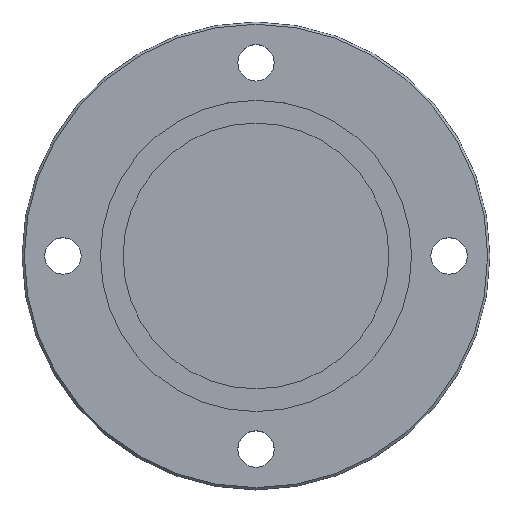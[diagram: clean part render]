
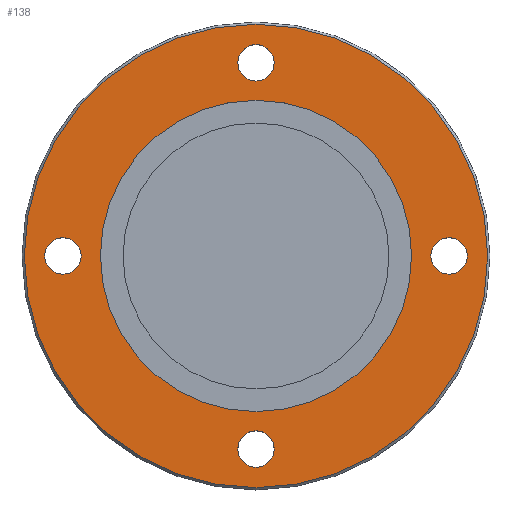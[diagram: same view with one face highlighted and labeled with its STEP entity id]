
A CAD part, top view. The second image highlights one B-rep face of the part: STEP entity #138.
In plain terms, the highlighted planar face has unit normal (0, 0, 1).
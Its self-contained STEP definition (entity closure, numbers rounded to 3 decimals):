
#4 = CIRCLE ( 'NONE', #447, 4. ) ;
#28 = DIRECTION ( 'NONE',  ( 0., 0., 1. ) ) ;
#36 = CARTESIAN_POINT ( 'NONE',  ( -42.5, 0., 10. ) ) ;
#41 = VERTEX_POINT ( 'NONE', #78 ) ;
#53 = VERTEX_POINT ( 'NONE', #409 ) ;
#57 = DIRECTION ( 'NONE',  ( 1., 0., 0. ) ) ;
#66 = DIRECTION ( 'NONE',  ( 1., 0., 0. ) ) ;
#78 = CARTESIAN_POINT ( 'NONE',  ( -51., 0., 10. ) ) ;
#81 = EDGE_CURVE ( 'NONE', #558, #675, #204, .T. ) ;
#84 = ORIENTED_EDGE ( 'NONE', *, *, #699, .T. ) ;
#85 = EDGE_CURVE ( 'NONE', #53, #135, #411, .T. ) ;
#86 = CIRCLE ( 'NONE', #476, 4. ) ;
#93 = DIRECTION ( 'NONE',  ( -1., 0., 0. ) ) ;
#106 = ORIENTED_EDGE ( 'NONE', *, *, #685, .F. ) ;
#114 = DIRECTION ( 'NONE',  ( 0., 0., 1. ) ) ;
#115 = DIRECTION ( 'NONE',  ( 0., 0., 1. ) ) ;
#117 = CARTESIAN_POINT ( 'NONE',  ( -34.25, 0., 10. ) ) ;
#119 = CARTESIAN_POINT ( 'NONE',  ( 0., 42.5, 10. ) ) ;
#129 = VERTEX_POINT ( 'NONE', #370 ) ;
#135 = VERTEX_POINT ( 'NONE', #426 ) ;
#137 = ORIENTED_EDGE ( 'NONE', *, *, #537, .F. ) ;
#138 = ADVANCED_FACE ( 'NONE', ( #375, #207, #709, #594, #317, #485 ), #205, .F. ) ;
#145 = VERTEX_POINT ( 'NONE', #377 ) ;
#148 = ORIENTED_EDGE ( 'NONE', *, *, #159, .F. ) ;
#153 = DIRECTION ( 'NONE',  ( 0., 0., 1. ) ) ;
#156 = VERTEX_POINT ( 'NONE', #265 ) ;
#159 = EDGE_CURVE ( 'NONE', #612, #708, #4, .T. ) ;
#199 = EDGE_CURVE ( 'NONE', #156, #145, #536, .T. ) ;
#204 = CIRCLE ( 'NONE', #373, 34.25 ) ;
#205 = PLANE ( 'NONE',  #592 ) ;
#206 = EDGE_LOOP ( 'NONE', ( #498, #652 ) ) ;
#207 = FACE_BOUND ( 'NONE', #431, .T. ) ;
#209 = DIRECTION ( 'NONE',  ( 0., -1., 0. ) ) ;
#220 = CARTESIAN_POINT ( 'NONE',  ( 42.5, 0., 10. ) ) ;
#223 = ORIENTED_EDGE ( 'NONE', *, *, #388, .F. ) ;
#231 = CARTESIAN_POINT ( 'NONE',  ( 0., 42.5, 10. ) ) ;
#255 = DIRECTION ( 'NONE',  ( -1., 0., 0. ) ) ;
#265 = CARTESIAN_POINT ( 'NONE',  ( -42.5, -4., 10. ) ) ;
#275 = CIRCLE ( 'NONE', #556, 34.25 ) ;
#284 = EDGE_LOOP ( 'NONE', ( #148, #703 ) ) ;
#298 = DIRECTION ( 'NONE',  ( 0., 0., 1. ) ) ;
#308 = EDGE_CURVE ( 'NONE', #41, #129, #314, .T. ) ;
#314 = CIRCLE ( 'NONE', #591, 51. ) ;
#317 = FACE_OUTER_BOUND ( 'NONE', #349, .T. ) ;
#320 = EDGE_CURVE ( 'NONE', #675, #558, #275, .T. ) ;
#347 = DIRECTION ( 'NONE',  ( 1., 0., 0. ) ) ;
#349 = EDGE_LOOP ( 'NONE', ( #389, #84 ) ) ;
#370 = CARTESIAN_POINT ( 'NONE',  ( 51., 0., 10. ) ) ;
#373 = AXIS2_PLACEMENT_3D ( 'NONE', #487, #28, #601 ) ;
#375 = FACE_BOUND ( 'NONE', #397, .T. ) ;
#377 = CARTESIAN_POINT ( 'NONE',  ( -42.5, 4., 10. ) ) ;
#380 = CIRCLE ( 'NONE', #454, 51. ) ;
#382 = CARTESIAN_POINT ( 'NONE',  ( 0., -42.5, 10. ) ) ;
#385 = AXIS2_PLACEMENT_3D ( 'NONE', #119, #625, #66 ) ;
#388 = EDGE_CURVE ( 'NONE', #135, #53, #688, .T. ) ;
#389 = ORIENTED_EDGE ( 'NONE', *, *, #308, .T. ) ;
#397 = EDGE_LOOP ( 'NONE', ( #137, #415 ) ) ;
#400 = DIRECTION ( 'NONE',  ( 1., 0., 0. ) ) ;
#409 = CARTESIAN_POINT ( 'NONE',  ( 4., -42.5, 10. ) ) ;
#411 = CIRCLE ( 'NONE', #629, 4. ) ;
#415 = ORIENTED_EDGE ( 'NONE', *, *, #199, .F. ) ;
#419 = DIRECTION ( 'NONE',  ( -1., 0., 0. ) ) ;
#426 = CARTESIAN_POINT ( 'NONE',  ( -4., -42.5, 10. ) ) ;
#430 = EDGE_CURVE ( 'NONE', #595, #678, #701, .T. ) ;
#431 = EDGE_LOOP ( 'NONE', ( #223, #616 ) ) ;
#443 = DIRECTION ( 'NONE',  ( 0., 0., 1. ) ) ;
#447 = AXIS2_PLACEMENT_3D ( 'NONE', #656, #153, #714 ) ;
#450 = DIRECTION ( 'NONE',  ( 0., 0., 1. ) ) ;
#451 = DIRECTION ( 'NONE',  ( 1., 0., 0. ) ) ;
#453 = CARTESIAN_POINT ( 'NONE',  ( 42.5, 4., 10. ) ) ;
#454 = AXIS2_PLACEMENT_3D ( 'NONE', #676, #298, #57 ) ;
#471 = DIRECTION ( 'NONE',  ( 0., 0., 1. ) ) ;
#473 = AXIS2_PLACEMENT_3D ( 'NONE', #575, #471, #419 ) ;
#476 = AXIS2_PLACEMENT_3D ( 'NONE', #599, #550, #494 ) ;
#485 = FACE_BOUND ( 'NONE', #626, .T. ) ;
#487 = CARTESIAN_POINT ( 'NONE',  ( 0., 0., 10. ) ) ;
#488 = ORIENTED_EDGE ( 'NONE', *, *, #430, .F. ) ;
#489 = DIRECTION ( 'NONE',  ( 0., 0., 1. ) ) ;
#492 = CIRCLE ( 'NONE', #604, 4. ) ;
#494 = DIRECTION ( 'NONE',  ( 0., 1., 0. ) ) ;
#497 = CARTESIAN_POINT ( 'NONE',  ( 0., 0., 10. ) ) ;
#498 = ORIENTED_EDGE ( 'NONE', *, *, #81, .F. ) ;
#510 = CIRCLE ( 'NONE', #576, 4. ) ;
#536 = CIRCLE ( 'NONE', #689, 4. ) ;
#537 = EDGE_CURVE ( 'NONE', #145, #156, #86, .T. ) ;
#541 = DIRECTION ( 'NONE',  ( 0., 0., -1. ) ) ;
#550 = DIRECTION ( 'NONE',  ( 0., 0., 1. ) ) ;
#554 = CARTESIAN_POINT ( 'NONE',  ( 34.25, 0., 10. ) ) ;
#556 = AXIS2_PLACEMENT_3D ( 'NONE', #622, #115, #451 ) ;
#558 = VERTEX_POINT ( 'NONE', #554 ) ;
#574 = CARTESIAN_POINT ( 'NONE',  ( 4., 42.5, 10. ) ) ;
#575 = CARTESIAN_POINT ( 'NONE',  ( 0., -42.5, 10. ) ) ;
#576 = AXIS2_PLACEMENT_3D ( 'NONE', #231, #114, #347 ) ;
#591 = AXIS2_PLACEMENT_3D ( 'NONE', #497, #723, #400 ) ;
#592 = AXIS2_PLACEMENT_3D ( 'NONE', #648, #541, #255 ) ;
#594 = FACE_BOUND ( 'NONE', #206, .T. ) ;
#595 = VERTEX_POINT ( 'NONE', #610 ) ;
#599 = CARTESIAN_POINT ( 'NONE',  ( -42.5, 0., 10. ) ) ;
#601 = DIRECTION ( 'NONE',  ( 1., 0., 0. ) ) ;
#604 = AXIS2_PLACEMENT_3D ( 'NONE', #220, #450, #209 ) ;
#610 = CARTESIAN_POINT ( 'NONE',  ( -4., 42.5, 10. ) ) ;
#612 = VERTEX_POINT ( 'NONE', #665 ) ;
#616 = ORIENTED_EDGE ( 'NONE', *, *, #85, .F. ) ;
#622 = CARTESIAN_POINT ( 'NONE',  ( 0., 0., 10. ) ) ;
#625 = DIRECTION ( 'NONE',  ( 0., 0., 1. ) ) ;
#626 = EDGE_LOOP ( 'NONE', ( #106, #488 ) ) ;
#629 = AXIS2_PLACEMENT_3D ( 'NONE', #382, #489, #93 ) ;
#641 = EDGE_CURVE ( 'NONE', #708, #612, #492, .T. ) ;
#648 = CARTESIAN_POINT ( 'NONE',  ( 0., 51., 10. ) ) ;
#652 = ORIENTED_EDGE ( 'NONE', *, *, #320, .F. ) ;
#656 = CARTESIAN_POINT ( 'NONE',  ( 42.5, 0., 10. ) ) ;
#665 = CARTESIAN_POINT ( 'NONE',  ( 42.5, -4., 10. ) ) ;
#675 = VERTEX_POINT ( 'NONE', #117 ) ;
#676 = CARTESIAN_POINT ( 'NONE',  ( 0., 0., 10. ) ) ;
#678 = VERTEX_POINT ( 'NONE', #574 ) ;
#685 = EDGE_CURVE ( 'NONE', #678, #595, #510, .T. ) ;
#688 = CIRCLE ( 'NONE', #473, 4. ) ;
#689 = AXIS2_PLACEMENT_3D ( 'NONE', #36, #443, #705 ) ;
#699 = EDGE_CURVE ( 'NONE', #129, #41, #380, .T. ) ;
#701 = CIRCLE ( 'NONE', #385, 4. ) ;
#703 = ORIENTED_EDGE ( 'NONE', *, *, #641, .F. ) ;
#705 = DIRECTION ( 'NONE',  ( 0., 1., 0. ) ) ;
#708 = VERTEX_POINT ( 'NONE', #453 ) ;
#709 = FACE_BOUND ( 'NONE', #284, .T. ) ;
#714 = DIRECTION ( 'NONE',  ( 0., -1., 0. ) ) ;
#723 = DIRECTION ( 'NONE',  ( 0., 0., 1. ) ) ;
